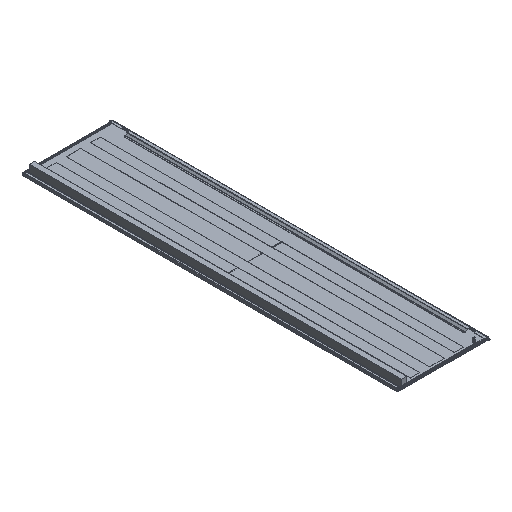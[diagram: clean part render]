
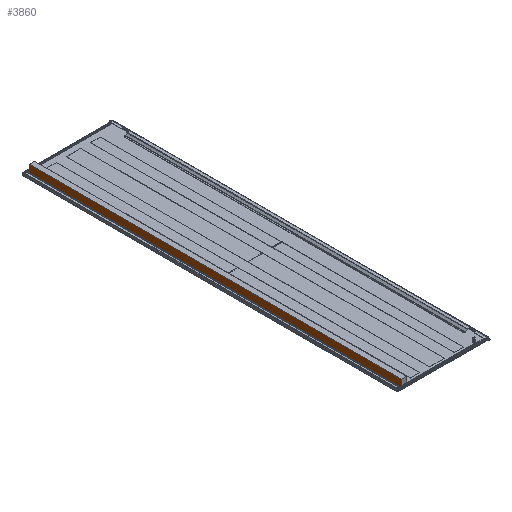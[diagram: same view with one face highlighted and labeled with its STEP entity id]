
A CAD part, isometric view. The second image highlights one B-rep face of the part: STEP entity #3860.
In plain terms, the highlighted planar face has unit normal (-1, 0, 0).
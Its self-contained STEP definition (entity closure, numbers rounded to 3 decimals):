
#19 = VECTOR ( 'NONE', #6764, 1000. ) ;
#20 = VECTOR ( 'NONE', #6761, 1000. ) ;
#23 = VECTOR ( 'NONE', #6755, 1000. ) ;
#822 = LINE ( 'NONE', #823, #3517 ) ;
#823 = CARTESIAN_POINT ( 'NONE',  ( -224.6, -1056.75, -12. ) ) ;
#824 = DIRECTION ( 'NONE',  ( 0., -1., 0. ) ) ;
#1522 = PLANE ( 'NONE',  #7371 ) ;
#1523 = CARTESIAN_POINT ( 'NONE',  ( -224.6, -1056.75, 29.5 ) ) ;
#1524 = DIRECTION ( 'NONE',  ( 1., 0., 0. ) ) ;
#1525 = DIRECTION ( 'NONE',  ( 0., 0., -1. ) ) ;
#2162 = EDGE_CURVE ( 'NONE', #4408, #4662, #6753, .T. ) ;
#2164 = EDGE_CURVE ( 'NONE', #4503, #4664, #6759, .T. ) ;
#2165 = EDGE_CURVE ( 'NONE', #4408, #4503, #6762, .T. ) ;
#3134 = CARTESIAN_POINT ( 'NONE',  ( -224.6, 1056.75, 29.5 ) ) ;
#3229 = CARTESIAN_POINT ( 'NONE',  ( -224.6, -1056.75, 29.5 ) ) ;
#3388 = CARTESIAN_POINT ( 'NONE',  ( -224.6, 1056.75, -12. ) ) ;
#3390 = CARTESIAN_POINT ( 'NONE',  ( -224.6, -1056.75, -12. ) ) ;
#3517 = VECTOR ( 'NONE', #824, 1000. ) ;
#3634 = EDGE_CURVE ( 'NONE', #4662, #4664, #822, .T. ) ;
#3860 = ADVANCED_FACE ( 'NONE', ( #7367 ), #1522, .F. ) ;
#4408 = VERTEX_POINT ( 'NONE', #3134 ) ;
#4503 = VERTEX_POINT ( 'NONE', #3229 ) ;
#4662 = VERTEX_POINT ( 'NONE', #3388 ) ;
#4664 = VERTEX_POINT ( 'NONE', #3390 ) ;
#4847 = EDGE_LOOP ( 'NONE', ( #5793, #5794, #5792, #5795 ) ) ;
#5792 = ORIENTED_EDGE ( 'NONE', *, *, #2165, .F. ) ;
#5793 = ORIENTED_EDGE ( 'NONE', *, *, #3634, .T. ) ;
#5794 = ORIENTED_EDGE ( 'NONE', *, *, #2164, .F. ) ;
#5795 = ORIENTED_EDGE ( 'NONE', *, *, #2162, .T. ) ;
#6753 = LINE ( 'NONE', #6754, #23 ) ;
#6754 = CARTESIAN_POINT ( 'NONE',  ( -224.6, 1056.75, 29.5 ) ) ;
#6755 = DIRECTION ( 'NONE',  ( 0., 0., -1. ) ) ;
#6759 = LINE ( 'NONE', #6760, #20 ) ;
#6760 = CARTESIAN_POINT ( 'NONE',  ( -224.6, -1056.75, 29.5 ) ) ;
#6761 = DIRECTION ( 'NONE',  ( 0., 0., -1. ) ) ;
#6762 = LINE ( 'NONE', #6763, #19 ) ;
#6763 = CARTESIAN_POINT ( 'NONE',  ( -224.6, -1056.75, 29.5 ) ) ;
#6764 = DIRECTION ( 'NONE',  ( 0., -1., 0. ) ) ;
#7367 = FACE_OUTER_BOUND ( 'NONE', #4847, .T. ) ;
#7371 = AXIS2_PLACEMENT_3D ( 'NONE', #1523, #1524, #1525 ) ;
